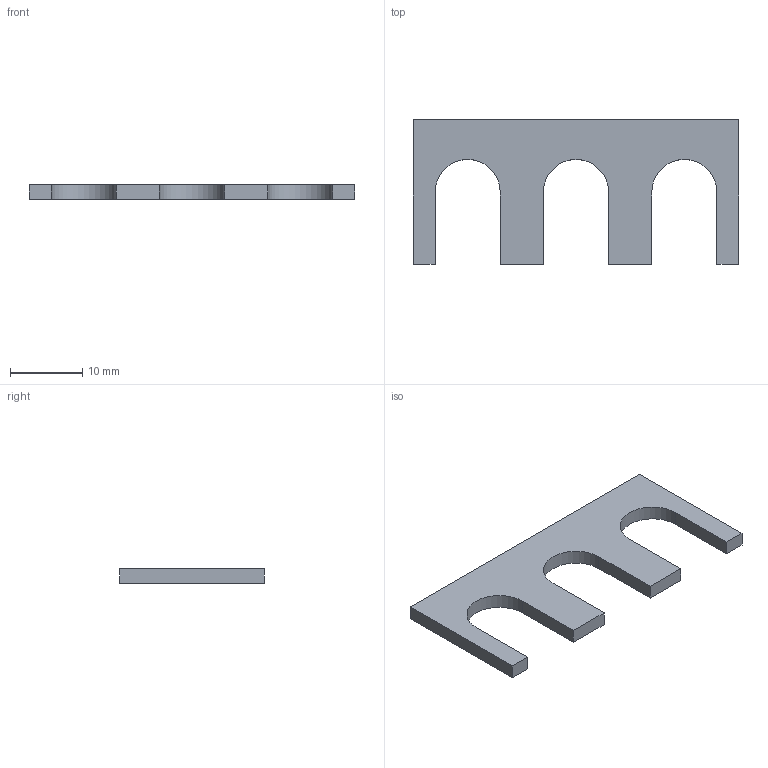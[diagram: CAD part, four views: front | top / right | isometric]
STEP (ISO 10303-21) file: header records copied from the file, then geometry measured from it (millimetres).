
FILE_DESCRIPTION(('CATIA V5 STEP Exchange'),'2;1');
FILE_NAME('\\mechanus\Mechanus\KONSTRUKCE-MONTAZ\PRODUKTY MECHANUS\MS006-SERIZOVACI PRVKY\ADMINISTRATIVA\podklady\simsy modely\MECHANUS šimsy\Mechanus--simsa--20x45 tl.2 (2045-200).stp','2024-03-13T12:28:22+00:00',('none'),('none'),'CATIA Version 5 Release 19 GA (IN-10)','CATIA V5 STEP AP203','none');
FILE_SCHEMA(('CONFIG_CONTROL_DESIGN'));
Length unit declared in the file: millimetre
Products named in the file (1): Mechanus--simsa--20x45 tl.2 (2045-200)
Bounding box: 45 x 20 x 2 mm (x, y, z)
Volume: 1069.1 mm3; surface area: 1480 mm2
Topology: 1 solids, 1 shells, 18 faces, 48 edges, 32 vertices
Faces by surface type: plane 15, cylinder 3
Entity records: 579 total; most frequent: CARTESIAN_POINT 96, ORIENTED_EDGE 96, DIRECTION 78, EDGE_CURVE 48, VECTOR 42, LINE 42, VERTEX_POINT 32, AXIS2_PLACEMENT_3D 22
